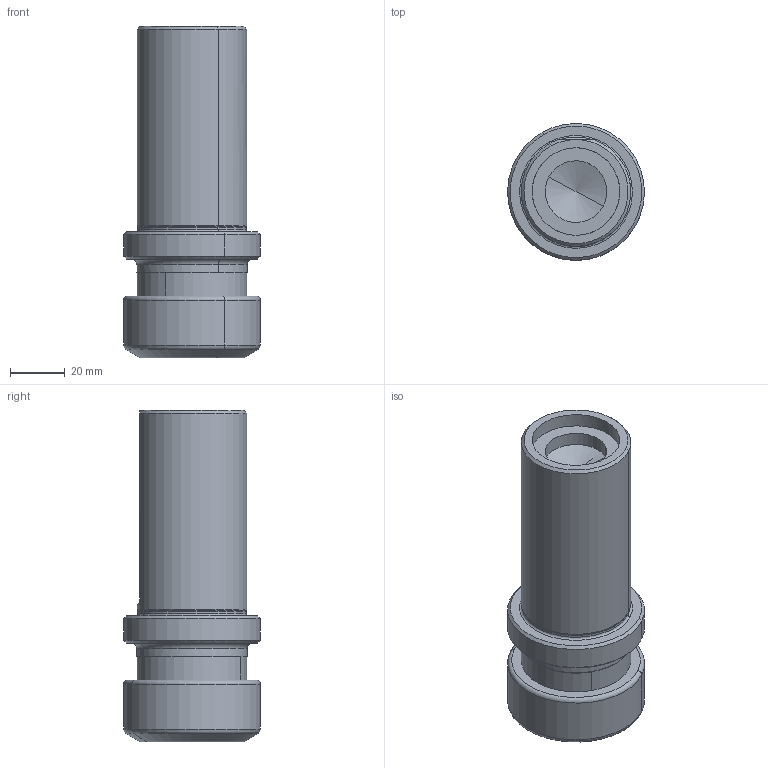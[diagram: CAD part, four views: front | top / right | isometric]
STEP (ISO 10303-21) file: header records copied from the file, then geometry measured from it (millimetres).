
FILE_DESCRIPTION(('CATIA V5 STEP','CAx-IF Rec.Pracs.--- Model Styling and Organization---1.2---2011-12-15'),'2;1');
FILE_NAME('\\nas01\drv1\utils\eitdev\rte\eit\transmagicconvert\db\out\635967332997460781\4508008-L-M.stp','2016-04-20T04:15:10+00:00',('none'),('none'),'CATIA Version 5 Release 21 SP 5 (IN-10)','CATIA V5 STEP AP214','none');
FILE_SCHEMA(('AUTOMOTIVE_DESIGN { 1 0 10303 214 1 1 1 1 }'));
Length unit declared in the file: millimetre
Products named in the file (1): ST 40X 75 ER32 F 
Bounding box: 49.99 x 49.99 x 121 mm (x, y, z)
Volume: 135152.3 mm3; surface area: 25744.1 mm2
Topology: 1 solids, 1 shells, 62 faces, 134 edges, 77 vertices
Faces by surface type: cylinder 22, cone 19, torus 12, plane 9
Entity records: 1578 total; most frequent: CARTESIAN_POINT 355, ORIENTED_EDGE 260, DIRECTION 199, EDGE_CURVE 130, AXIS2_PLACEMENT_3D 119, CIRCLE 80, VERTEX_POINT 77, EDGE_LOOP 69
